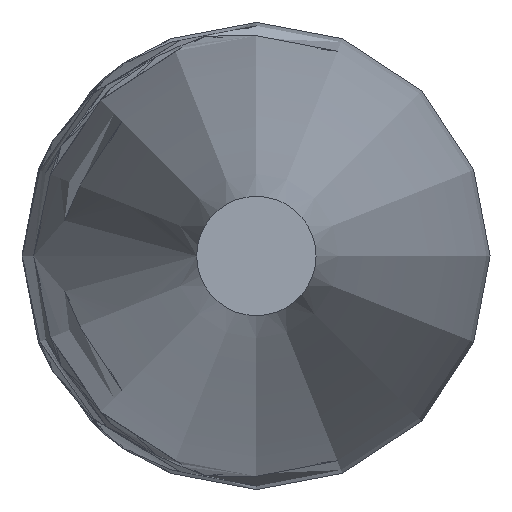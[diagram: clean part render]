
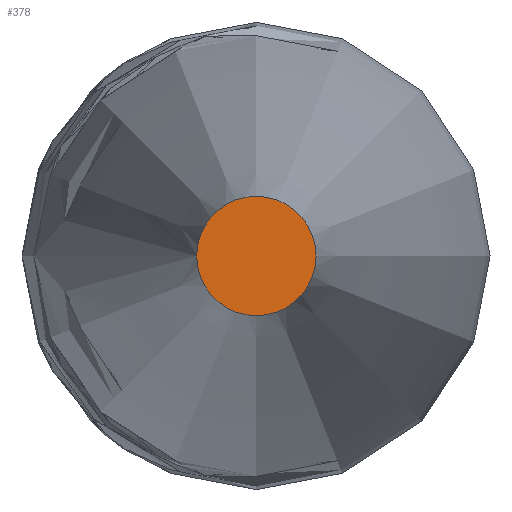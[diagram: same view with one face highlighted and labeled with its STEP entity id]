
A CAD part, left-side view. The second image highlights one B-rep face of the part: STEP entity #378.
In plain terms, the highlighted planar face has unit normal (-1, 0, 0).
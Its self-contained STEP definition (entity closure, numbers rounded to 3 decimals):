
#324=CARTESIAN_POINT('',(350.0,83.0,0.0));
#325=VERTEX_POINT('',#324);
#359=CARTESIAN_POINT('',(350.0,0.,0.0));
#360=DIRECTION('',(-1.0,0.0,0.0));
#361=DIRECTION('',(0.0,1.0,0.0));
#362=AXIS2_PLACEMENT_3D('',#359,#360,#361);
#363=CIRCLE('',#362,83.0);
#364=EDGE_CURVE('',#325,#325,#363,.T.);
#370=CARTESIAN_POINT('',(350.0,41.5,0.0));
#371=DIRECTION('',(-1.0,0.0,0.0));
#372=DIRECTION('',(0.0,0.0,1.0));
#373=AXIS2_PLACEMENT_3D('',#370,#371,#372);
#374=PLANE('',#373);
#375=ORIENTED_EDGE('',*,*,#364,.T.);
#376=EDGE_LOOP('',(#375));
#377=FACE_OUTER_BOUND('',#376,.T.);
#378=ADVANCED_FACE('',(#377),#374,.T.);
